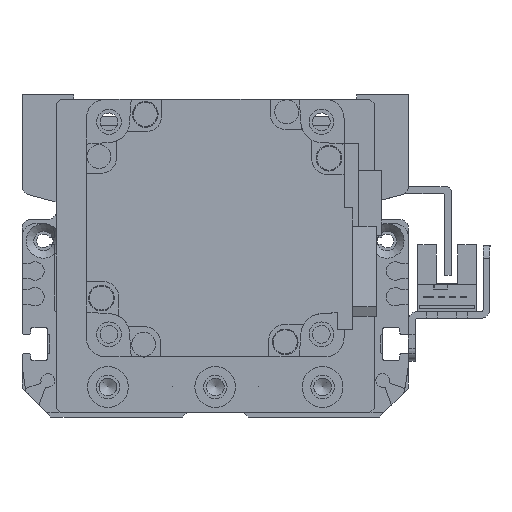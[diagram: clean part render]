
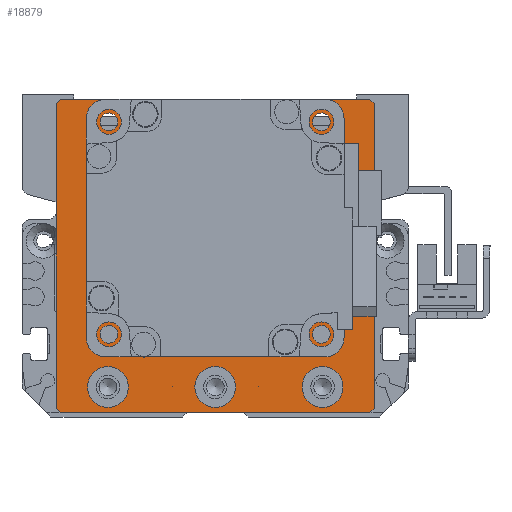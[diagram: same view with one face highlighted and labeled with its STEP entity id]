
A CAD part, left-side view. The second image highlights one B-rep face of the part: STEP entity #18879.
In plain terms, the highlighted planar face has unit normal (-1, 0, 0) as drawn and (0, 0, 1) by its records, which use the part's own axes.
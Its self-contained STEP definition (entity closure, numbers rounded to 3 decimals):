
#493=FACE_BOUND('',#3417,.T.);
#494=FACE_BOUND('',#3418,.T.);
#495=FACE_BOUND('',#3419,.T.);
#496=FACE_BOUND('',#3420,.T.);
#497=FACE_BOUND('',#3421,.T.);
#498=FACE_BOUND('',#3422,.T.);
#499=FACE_BOUND('',#3423,.T.);
#500=FACE_BOUND('',#3424,.T.);
#897=PLANE('',#20912);
#2192=FACE_OUTER_BOUND('',#3416,.T.);
#3416=EDGE_LOOP('',(#16027,#16028,#16029,#16030,#16031,#16032,#16033,#16034));
#3417=EDGE_LOOP('',(#16035));
#3418=EDGE_LOOP('',(#16036));
#3419=EDGE_LOOP('',(#16037));
#3420=EDGE_LOOP('',(#16038));
#3421=EDGE_LOOP('',(#16039));
#3422=EDGE_LOOP('',(#16040));
#3423=EDGE_LOOP('',(#16041));
#3424=EDGE_LOOP('',(#16042));
#4926=LINE('',#31217,#6578);
#4932=LINE('',#31228,#6584);
#4939=LINE('',#31263,#6591);
#4942=LINE('',#31268,#6594);
#4948=LINE('',#31289,#6600);
#4951=LINE('',#31294,#6603);
#4952=LINE('',#31297,#6604);
#4960=LINE('',#31336,#6612);
#6578=VECTOR('',#24987,10.);
#6584=VECTOR('',#24995,10.);
#6591=VECTOR('',#25026,10.);
#6594=VECTOR('',#25031,10.);
#6600=VECTOR('',#25055,10.);
#6603=VECTOR('',#25060,10.);
#6604=VECTOR('',#25063,10.);
#6612=VECTOR('',#25113,10.);
#7866=CIRCLE('',#20881,4.75);
#7869=CIRCLE('',#20887,4.75);
#7872=CIRCLE('',#20893,4.75);
#7874=CIRCLE('',#20899,2.067);
#7875=CIRCLE('',#20901,2.067);
#7876=CIRCLE('',#20903,2.067);
#7877=CIRCLE('',#20905,2.067);
#7880=CIRCLE('',#20910,25.);
#9309=VERTEX_POINT('',#31215);
#9310=VERTEX_POINT('',#31216);
#9314=VERTEX_POINT('',#31226);
#9330=VERTEX_POINT('',#31262);
#9331=VERTEX_POINT('',#31266);
#9337=VERTEX_POINT('',#31288);
#9338=VERTEX_POINT('',#31292);
#9339=VERTEX_POINT('',#31296);
#9342=VERTEX_POINT('',#31305);
#9345=VERTEX_POINT('',#31316);
#9348=VERTEX_POINT('',#31327);
#9350=VERTEX_POINT('',#31338);
#9351=VERTEX_POINT('',#31342);
#9352=VERTEX_POINT('',#31346);
#9353=VERTEX_POINT('',#31350);
#9356=VERTEX_POINT('',#31359);
#11631=EDGE_CURVE('',#9309,#9310,#4926,.T.);
#11637=EDGE_CURVE('',#9309,#9314,#4932,.T.);
#11654=EDGE_CURVE('',#9330,#9314,#4939,.T.);
#11657=EDGE_CURVE('',#9330,#9331,#4942,.T.);
#11666=EDGE_CURVE('',#9337,#9331,#4948,.T.);
#11669=EDGE_CURVE('',#9337,#9338,#4951,.T.);
#11670=EDGE_CURVE('',#9339,#9338,#4952,.T.);
#11674=EDGE_CURVE('',#9342,#9342,#7866,.T.);
#11679=EDGE_CURVE('',#9345,#9345,#7869,.T.);
#11684=EDGE_CURVE('',#9348,#9348,#7872,.T.);
#11688=EDGE_CURVE('',#9339,#9310,#4960,.T.);
#11689=EDGE_CURVE('',#9350,#9350,#7874,.T.);
#11691=EDGE_CURVE('',#9351,#9351,#7875,.T.);
#11693=EDGE_CURVE('',#9352,#9352,#7876,.T.);
#11695=EDGE_CURVE('',#9353,#9353,#7877,.T.);
#11699=EDGE_CURVE('',#9356,#9356,#7880,.T.);
#16027=ORIENTED_EDGE('',*,*,#11631,.F.);
#16028=ORIENTED_EDGE('',*,*,#11637,.T.);
#16029=ORIENTED_EDGE('',*,*,#11654,.F.);
#16030=ORIENTED_EDGE('',*,*,#11657,.T.);
#16031=ORIENTED_EDGE('',*,*,#11666,.F.);
#16032=ORIENTED_EDGE('',*,*,#11669,.T.);
#16033=ORIENTED_EDGE('',*,*,#11670,.F.);
#16034=ORIENTED_EDGE('',*,*,#11688,.T.);
#16035=ORIENTED_EDGE('',*,*,#11674,.T.);
#16036=ORIENTED_EDGE('',*,*,#11679,.T.);
#16037=ORIENTED_EDGE('',*,*,#11684,.T.);
#16038=ORIENTED_EDGE('',*,*,#11689,.T.);
#16039=ORIENTED_EDGE('',*,*,#11691,.T.);
#16040=ORIENTED_EDGE('',*,*,#11693,.T.);
#16041=ORIENTED_EDGE('',*,*,#11695,.T.);
#16042=ORIENTED_EDGE('',*,*,#11699,.T.);
#18879=ADVANCED_FACE('',(#2192,#493,#494,#495,#496,#497,#498,#499,#500),
#897,.T.);
#20881=AXIS2_PLACEMENT_3D('',#31306,#25073,#25074);
#20887=AXIS2_PLACEMENT_3D('',#31317,#25087,#25088);
#20893=AXIS2_PLACEMENT_3D('',#31328,#25101,#25102);
#20899=AXIS2_PLACEMENT_3D('',#31339,#25116,#25117);
#20901=AXIS2_PLACEMENT_3D('',#31343,#25121,#25122);
#20903=AXIS2_PLACEMENT_3D('',#31347,#25126,#25127);
#20905=AXIS2_PLACEMENT_3D('',#31351,#25131,#25132);
#20910=AXIS2_PLACEMENT_3D('',#31360,#25142,#25143);
#20912=AXIS2_PLACEMENT_3D('',#31364,#25148,#25149);
#24987=DIRECTION('',(0.707,-0.707,0.));
#24995=DIRECTION('',(-1.,0.,0.));
#25026=DIRECTION('',(0.707,0.707,0.));
#25031=DIRECTION('',(0.,-1.,0.));
#25055=DIRECTION('',(-0.707,0.707,0.));
#25060=DIRECTION('',(1.,0.,0.));
#25063=DIRECTION('',(-0.707,-0.707,0.));
#25073=DIRECTION('center_axis',(0.,0.,-1.));
#25074=DIRECTION('ref_axis',(1.,0.,0.));
#25087=DIRECTION('center_axis',(0.,0.,-1.));
#25088=DIRECTION('ref_axis',(1.,0.,0.));
#25101=DIRECTION('center_axis',(0.,0.,-1.));
#25102=DIRECTION('ref_axis',(1.,0.,0.));
#25113=DIRECTION('',(0.,1.,0.));
#25116=DIRECTION('center_axis',(0.,0.,-1.));
#25117=DIRECTION('ref_axis',(1.,0.,0.));
#25121=DIRECTION('center_axis',(0.,0.,-1.));
#25122=DIRECTION('ref_axis',(1.,0.,0.));
#25126=DIRECTION('center_axis',(0.,0.,-1.));
#25127=DIRECTION('ref_axis',(1.,0.,0.));
#25131=DIRECTION('center_axis',(0.,0.,-1.));
#25132=DIRECTION('ref_axis',(1.,0.,0.));
#25142=DIRECTION('center_axis',(0.,0.,-1.));
#25143=DIRECTION('ref_axis',(1.,0.,0.));
#25148=DIRECTION('center_axis',(0.,0.,1.));
#25149=DIRECTION('ref_axis',(1.,0.,0.));
#31215=CARTESIAN_POINT('',(36.,37.5,59.));
#31216=CARTESIAN_POINT('',(37.,36.5,59.));
#31217=CARTESIAN_POINT('',(36.625,36.875,59.));
#31226=CARTESIAN_POINT('',(-36.,37.5,59.));
#31228=CARTESIAN_POINT('',(37.,37.5,59.));
#31262=CARTESIAN_POINT('',(-37.,36.5,59.));
#31263=CARTESIAN_POINT('',(-36.625,36.875,59.));
#31266=CARTESIAN_POINT('',(-37.,-34.5,59.));
#31268=CARTESIAN_POINT('',(-37.,35.5,59.));
#31288=CARTESIAN_POINT('',(-36.,-35.5,59.));
#31289=CARTESIAN_POINT('',(-36.125,-35.375,59.));
#31292=CARTESIAN_POINT('',(36.,-35.5,59.));
#31294=CARTESIAN_POINT('',(-37.,-35.5,59.));
#31296=CARTESIAN_POINT('',(37.,-34.5,59.));
#31297=CARTESIAN_POINT('',(36.125,-35.375,59.));
#31305=CARTESIAN_POINT('',(-29.75,-29.5,59.));
#31306=CARTESIAN_POINT('Origin',(-25.,-29.5,59.));
#31316=CARTESIAN_POINT('',(-4.75,-29.5,59.));
#31317=CARTESIAN_POINT('Origin',(0.,-29.5,59.));
#31327=CARTESIAN_POINT('',(20.25,-29.5,59.));
#31328=CARTESIAN_POINT('Origin',(25.,-29.5,59.));
#31336=CARTESIAN_POINT('',(37.,-35.5,59.));
#31338=CARTESIAN_POINT('',(-26.816,-17.249,59.));
#31339=CARTESIAN_POINT('Origin',(-24.749,-17.249,59.));
#31342=CARTESIAN_POINT('',(-26.816,32.249,59.));
#31343=CARTESIAN_POINT('Origin',(-24.749,32.249,59.));
#31346=CARTESIAN_POINT('',(22.682,32.249,59.));
#31347=CARTESIAN_POINT('Origin',(24.749,32.249,59.));
#31350=CARTESIAN_POINT('',(22.682,-17.249,59.));
#31351=CARTESIAN_POINT('Origin',(24.749,-17.249,59.));
#31359=CARTESIAN_POINT('',(-25.,7.5,59.));
#31360=CARTESIAN_POINT('Origin',(0.,7.5,59.));
#31364=CARTESIAN_POINT('Origin',(0.,0.,
59.));
